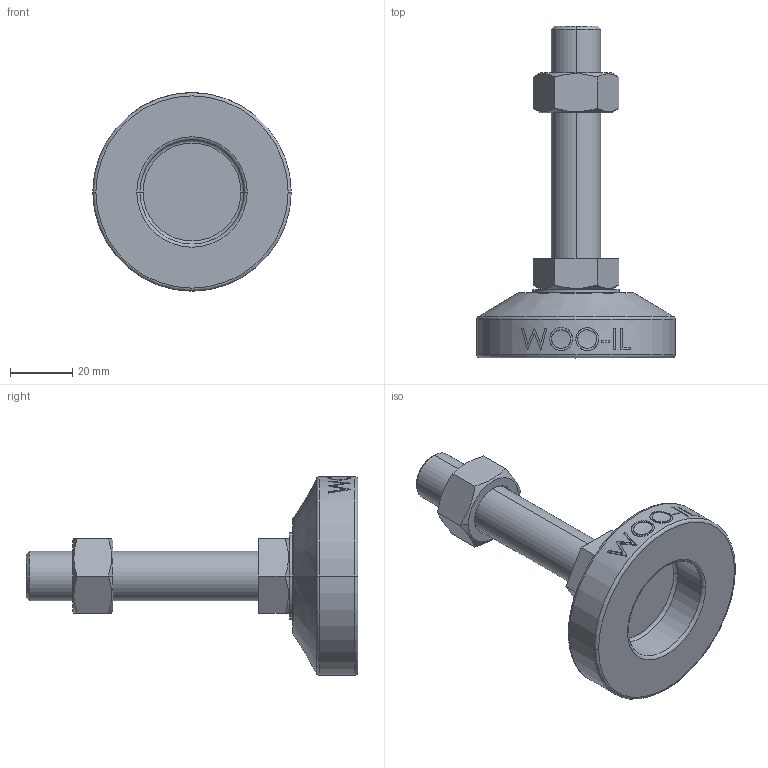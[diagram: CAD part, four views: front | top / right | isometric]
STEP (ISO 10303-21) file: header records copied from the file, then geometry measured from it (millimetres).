
FILE_DESCRIPTION (( 'STEP AP214' ), '1' );
FILE_NAME ('MFZ64-M16-75.step', '2021-01-15T07:06:49', ( '' ), ( '' ), 'SwSTEP 2.0', 'SolidWorks 2019', '' );
FILE_SCHEMA (( 'AUTOMOTIVE_DESIGN' ));
Length unit declared in the file: millimetre
Products named in the file (2): MFZ64-M16-75
Bounding box: 64 x 107 x 64 mm (x, y, z)
Volume: 71471.2 mm3; surface area: 18366.6 mm2
Topology: 3 solids, 3 shells, 106 faces, 243 edges, 154 vertices
Faces by surface type: plane 48, cylinder 18, bspline 16, cone 14, torus 10
Entity records: 4520 total; most frequent: CARTESIAN_POINT 2177, ORIENTED_EDGE 486, DIRECTION 439, EDGE_CURVE 243, AXIS2_PLACEMENT_3D 170, VERTEX_POINT 154, EDGE_LOOP 119, FACE_OUTER_BOUND 106
